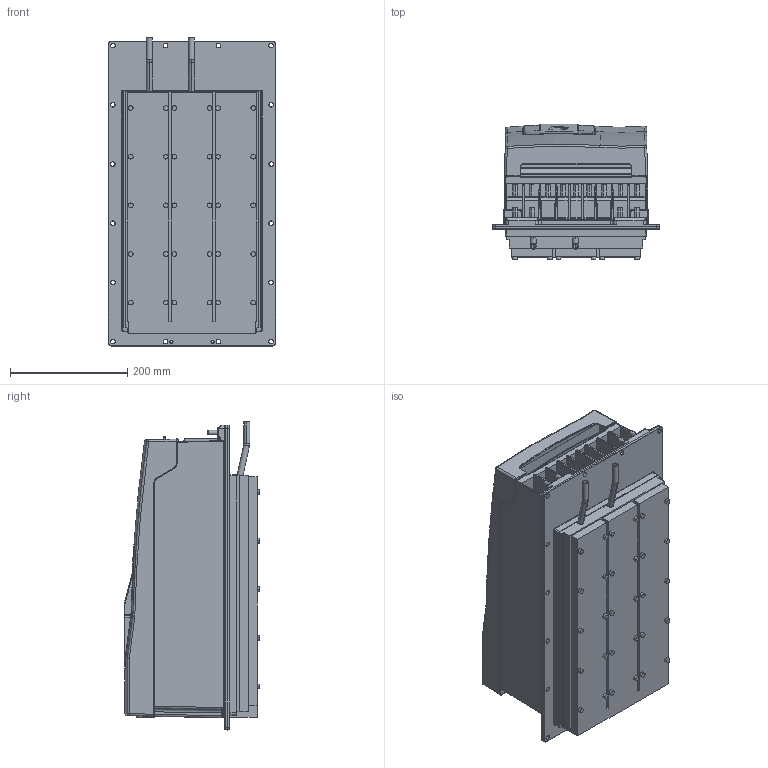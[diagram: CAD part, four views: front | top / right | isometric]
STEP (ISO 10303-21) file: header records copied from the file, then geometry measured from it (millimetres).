
FILE_DESCRIPTION (( 'STEP AP214' ), '1' );
FILE_NAME ('F6-6TW6-A011.STEP', '2022-02-16T10:02:22', ( '' ), ( '' ), 'SwSTEP 2.0', 'SolidWorks 2019', '' );
FILE_SCHEMA (( 'AUTOMOTIVE_DESIGN' ));
Length unit declared in the file: millimetre
Products named in the file (11): 10059764_000_Blindabdeckung (Kundenmodell); Kundenmodell^10061793_000; 10027052_000_Geh„usebaugruppe F6-6 (Kundenmodell); Kundenmodell^10027052_000; 10061793_000_Deckelbaugruppe F6-6 (Kundenmodell); Kundenmodell^10059764_000; 10044643_000_Kundenmodell; Kundenmodell^10070738_000; F6-6TW6-A011; 10070738_000_Leistungsteil F6-6  TW1 (Kundenmodell); Kundenmodell^10044643_000
Assembly tree (10 placements, depth 4):
  F6-6TW6-A011
    10070738_000_Leistungsteil F6-6  TW1 (Kundenmodell)
      Kundenmodell^10070738_000
    10027052_000_Geh„usebaugruppe F6-6 (Kundenmodell)
      10061793_000_Deckelbaugruppe F6-6 (Kundenmodell)
        Kundenmodell^10061793_000
      Kundenmodell^10027052_000
    10044643_000_Kundenmodell
      10059764_000_Blindabdeckung (Kundenmodell)
        Kundenmodell^10059764_000
      Kundenmodell^10044643_000
Bounding box: 285 x 231.4 x 525.5 mm (x, y, z)
Volume: 22383732.8 mm3; surface area: 1312442.8 mm2
Topology: 12 solids, 21 shells, 3162 faces, 7815 edges, 4647 vertices
Faces by surface type: cylinder 1137, plane 1018, bspline 620, torus 198, sphere 111, cone 78
Entity records: 105816 total; most frequent: CARTESIAN_POINT 36088, ORIENTED_EDGE 15314, DIRECTION 13647, EDGE_CURVE 7657, AXIS2_PLACEMENT_3D 4999, VERTEX_POINT 4645, VECTOR 3649, LINE 3649
